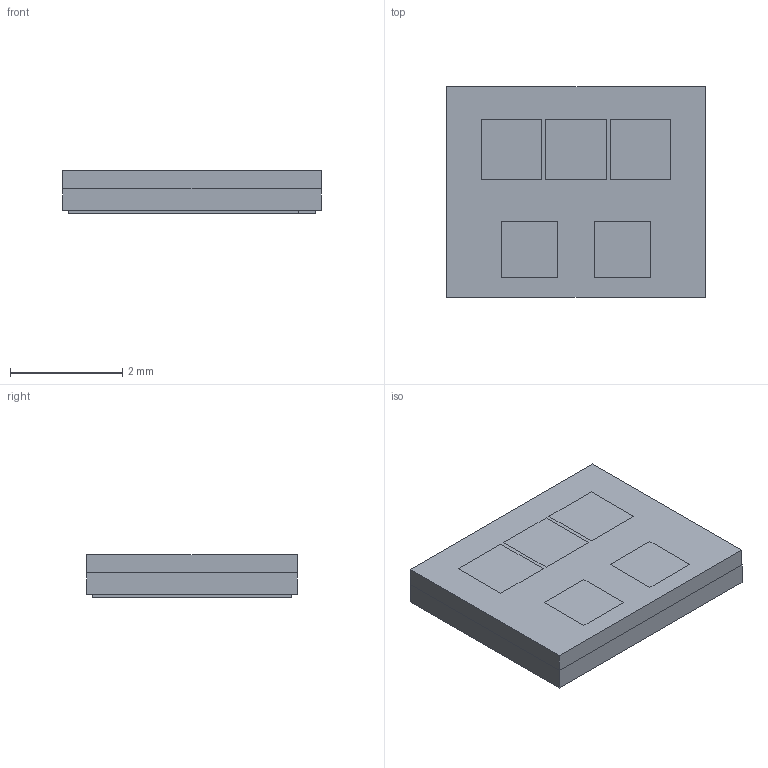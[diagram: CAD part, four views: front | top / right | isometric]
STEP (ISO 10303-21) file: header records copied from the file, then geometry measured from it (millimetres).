
FILE_DESCRIPTION (( 'STEP AP214' ), '1' );
FILE_NAME ('ATL3.STEP', '2025-04-27T07:29:30', ( '' ), ( '' ), 'SwSTEP 2.0', 'SolidWorks 2022', '' );
FILE_SCHEMA (( 'AUTOMOTIVE_DESIGN' ));
Length unit declared in the file: millimetre
Products named in the file (1): ATL3
Bounding box: 4.6 x 3.75 x 0.76 mm (x, y, z)
Volume: 12.9 mm3; surface area: 150.1 mm2
Topology: 12 solids, 12 shells, 167 faces, 429 edges, 286 vertices
Faces by surface type: plane 165, cylinder 2
Entity records: 6969 total; most frequent: CARTESIAN_POINT 883, ORIENTED_EDGE 858, DIRECTION 769, EDGE_CURVE 429, LINE 425, VECTOR 425, VERTEX_POINT 286, EDGE_LOOP 183
